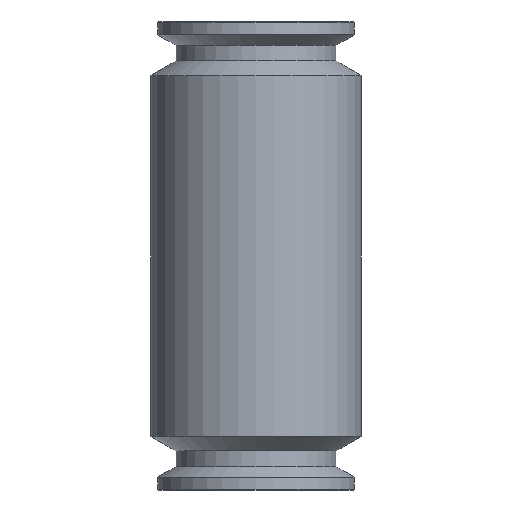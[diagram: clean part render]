
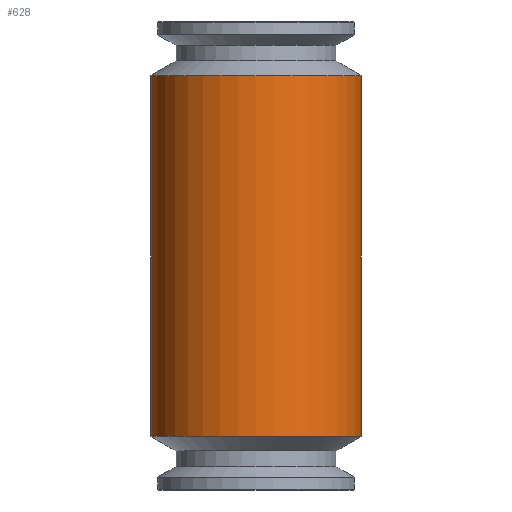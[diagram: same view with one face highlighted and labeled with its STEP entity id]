
A CAD part, front view. The second image highlights one B-rep face of the part: STEP entity #628.
In plain terms, the highlighted cylindrical face has radius 27 mm (diameter 54 mm), a full revolution.
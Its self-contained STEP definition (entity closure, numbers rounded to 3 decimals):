
#531=CYLINDRICAL_SURFACE('',#7776,27.);
#628=ADVANCED_FACE('',(#1328,#1329,#1330),#531,.T.);
#1328=FACE_BOUND('',#1444,.T.);
#1329=FACE_BOUND('',#1445,.T.);
#1330=FACE_BOUND('',#1446,.T.);
#1444=EDGE_LOOP('',(#1957));
#1445=EDGE_LOOP('',(#1958));
#1446=EDGE_LOOP('',(#1959,#1960,#1961,#1962,#1963,#1964));
#1957=ORIENTED_EDGE('',*,*,#4880,.T.);
#1958=ORIENTED_EDGE('',*,*,#4881,.T.);
#1959=ORIENTED_EDGE('',*,*,#4878,.T.);
#1960=ORIENTED_EDGE('',*,*,#4882,.T.);
#1961=ORIENTED_EDGE('',*,*,#4883,.T.);
#1962=ORIENTED_EDGE('',*,*,#4876,.T.);
#1963=ORIENTED_EDGE('',*,*,#4884,.T.);
#1964=ORIENTED_EDGE('',*,*,#4885,.T.);
#4149=VERTEX_POINT('',#10598);
#4150=VERTEX_POINT('',#10599);
#4151=VERTEX_POINT('',#10601);
#4152=VERTEX_POINT('',#10603);
#4153=VERTEX_POINT('',#10607);
#4154=VERTEX_POINT('',#10609);
#4155=VERTEX_POINT('',#10616);
#4156=VERTEX_POINT('',#10629);
#4876=EDGE_CURVE('',#4149,#4150,#6426,.T.);
#4878=EDGE_CURVE('',#4152,#4151,#6427,.T.);
#4880=EDGE_CURVE('',#4153,#4153,#5976,.T.);
#4881=EDGE_CURVE('',#4154,#4154,#5977,.T.);
#4882=EDGE_CURVE('',#4151,#4155,#6245,.T.);
#4883=EDGE_CURVE('',#4155,#4149,#6246,.T.);
#4884=EDGE_CURVE('',#4150,#4156,#6247,.T.);
#4885=EDGE_CURVE('',#4156,#4152,#6248,.T.);
#5976=CIRCLE('',#7774,27.);
#5977=CIRCLE('',#7775,27.);
#6245=B_SPLINE_CURVE_WITH_KNOTS('',3,(#10610,#10611,#10612,#10613,#10614,
#10615),.UNSPECIFIED.,.F.,.F.,(4,2,4),(0.,0.5,1.),.UNSPECIFIED.);
#6246=B_SPLINE_CURVE_WITH_KNOTS('',3,(#10617,#10618,#10619,#10620,#10621,
#10622),.UNSPECIFIED.,.F.,.F.,(4,2,4),(0.,0.5,1.),.UNSPECIFIED.);
#6247=B_SPLINE_CURVE_WITH_KNOTS('',3,(#10623,#10624,#10625,#10626,#10627,
#10628),.UNSPECIFIED.,.F.,.F.,(4,2,4),(0.,0.5,1.),.UNSPECIFIED.);
#6248=B_SPLINE_CURVE_WITH_KNOTS('',3,(#10630,#10631,#10632,#10633,#10634,
#10635),.UNSPECIFIED.,.F.,.F.,(4,2,4),(0.,0.5,1.),.UNSPECIFIED.);
#6426=LINE('',#10597,#7085);
#6427=LINE('',#10602,#7086);
#7085=VECTOR('',#8511,1.);
#7086=VECTOR('',#8514,1.);
#7774=AXIS2_PLACEMENT_3D('',#10606,#8519,#8520);
#7775=AXIS2_PLACEMENT_3D('',#10608,#8521,#8522);
#7776=AXIS2_PLACEMENT_3D('',#10636,#8523,#8524);
#8511=DIRECTION('',(0.,0.,1.));
#8514=DIRECTION('',(0.,0.,-1.));
#8519=DIRECTION('',(0.,0.,1.));
#8520=DIRECTION('',(-1.,0.,0.));
#8521=DIRECTION('',(0.,0.,-1.));
#8522=DIRECTION('',(1.,0.,0.));
#8523=DIRECTION('',(0.,0.,-1.));
#8524=DIRECTION('',(1.,0.,0.));
#10597=CARTESIAN_POINT('',(10.198,25.,74.));
#10598=CARTESIAN_POINT('',(10.198,25.,-40.206));
#10599=CARTESIAN_POINT('',(10.198,25.,-25.794));
#10601=CARTESIAN_POINT('',(-10.198,25.,-40.25));
#10602=CARTESIAN_POINT('',(-10.198,25.,74.));
#10603=CARTESIAN_POINT('',(-10.198,25.,-25.75));
#10606=CARTESIAN_POINT('',(0.,0.,-94.247));
#10607=CARTESIAN_POINT('',(-27.,0.,-94.247));
#10608=CARTESIAN_POINT('',(0.,0.,-1.753));
#10609=CARTESIAN_POINT('',(27.,0.,-1.753));
#10610=CARTESIAN_POINT('',(-10.198,25.,-40.25));
#10611=CARTESIAN_POINT('',(-9.251,25.386,-42.247));
#10612=CARTESIAN_POINT('',(-7.907,25.878,-44.013));
#10613=CARTESIAN_POINT('',(-4.432,26.693,-46.658));
#10614=CARTESIAN_POINT('',(-2.255,27.,-47.502));
#10615=CARTESIAN_POINT('',(0.,27.,-47.5));
#10616=CARTESIAN_POINT('',(0.,27.,-47.5));
#10617=CARTESIAN_POINT('',(0.,27.,-47.5));
#10618=CARTESIAN_POINT('',(2.257,27.,-47.498));
#10619=CARTESIAN_POINT('',(4.418,26.697,-46.659));
#10620=CARTESIAN_POINT('',(7.918,25.875,-43.984));
#10621=CARTESIAN_POINT('',(9.255,25.385,-42.209));
#10622=CARTESIAN_POINT('',(10.198,25.,-40.206));
#10623=CARTESIAN_POINT('',(10.198,25.,-25.794));
#10624=CARTESIAN_POINT('',(9.255,25.385,-23.79));
#10625=CARTESIAN_POINT('',(7.914,25.876,-22.015));
#10626=CARTESIAN_POINT('',(4.439,26.692,-19.355));
#10627=CARTESIAN_POINT('',(2.26,27.,-18.502));
#10628=CARTESIAN_POINT('',(0.,27.,-18.5));
#10629=CARTESIAN_POINT('',(0.,27.,-18.5));
#10630=CARTESIAN_POINT('',(0.,27.,-18.5));
#10631=CARTESIAN_POINT('',(-2.253,27.,-18.498));
#10632=CARTESIAN_POINT('',(-4.411,26.698,-19.328));
#10633=CARTESIAN_POINT('',(-7.912,25.877,-21.988));
#10634=CARTESIAN_POINT('',(-9.251,25.386,-23.754));
#10635=CARTESIAN_POINT('',(-10.198,25.,-25.75));
#10636=CARTESIAN_POINT('',(0.,0.,74.));
